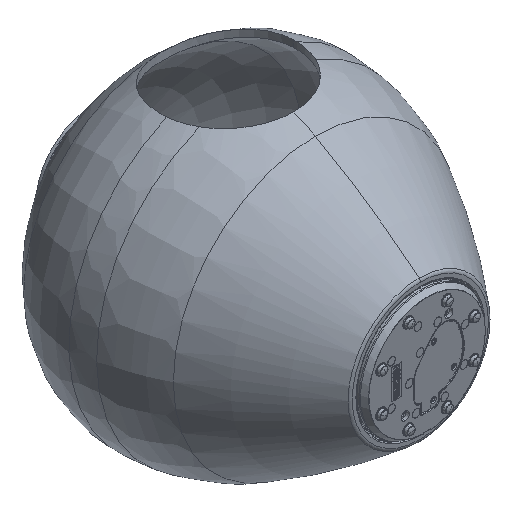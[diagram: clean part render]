
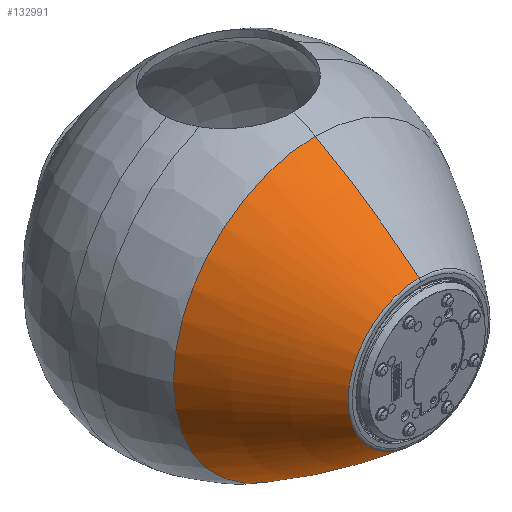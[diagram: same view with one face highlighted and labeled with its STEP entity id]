
A CAD part, isometric view. The second image highlights one B-rep face of the part: STEP entity #132991.
In plain terms, the highlighted toroidal (fillet/blend) face has major radius 460.581 mm and minor radius 700 mm.
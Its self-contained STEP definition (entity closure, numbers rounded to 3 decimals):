
#2840 = CARTESIAN_POINT ( 'NONE',  ( -107.661, 168.767, -128.637 ) ) ;
#4013 = DIRECTION ( 'NONE',  ( 0., 0., 1. ) ) ;
#17148 = FACE_OUTER_BOUND ( 'NONE', #291789, .T. ) ;
#32391 = DIRECTION ( 'NONE',  ( -1., 0., 0. ) ) ;
#39270 = CARTESIAN_POINT ( 'NONE',  ( -107.661, 506.711, 23.803 ) ) ;
#44071 = CIRCLE ( 'NONE', #54086, 700. ) ;
#46719 = CARTESIAN_POINT ( 'NONE',  ( -107.661, 57.419, -52.4 ) ) ;
#54086 = AXIS2_PLACEMENT_3D ( 'NONE', #175098, #32391, #4013 ) ;
#66172 = EDGE_CURVE ( 'NONE', #169624, #111427, #270247, .T. ) ;
#78131 = CARTESIAN_POINT ( 'NONE',  ( -107.661, 57.419, 100.005 ) ) ;
#93979 = VERTEX_POINT ( 'NONE', #103664 ) ;
#97089 = CARTESIAN_POINT ( 'NONE',  ( -107.661, 168.767, 23.803 ) ) ;
#99980 = DIRECTION ( 'NONE',  ( 0., 0., 1. ) ) ;
#103664 = CARTESIAN_POINT ( 'NONE',  ( -107.661, 168.767, 176.242 ) ) ;
#111427 = VERTEX_POINT ( 'NONE', #78131 ) ;
#114218 = ORIENTED_EDGE ( 'NONE', *, *, #169804, .T. ) ;
#123796 = CARTESIAN_POINT ( 'NONE',  ( -107.661, 57.419, 23.803 ) ) ;
#124696 = EDGE_CURVE ( 'NONE', #169624, #146662, #276823, .T. ) ;
#132991 = ADVANCED_FACE ( 'NONE', ( #17148 ), #138571, .T. ) ;
#138571 = TOROIDAL_SURFACE ( 'NONE', #270201, -460.581, 700. ) ;
#146662 = VERTEX_POINT ( 'NONE', #2840 ) ;
#153817 = AXIS2_PLACEMENT_3D ( 'NONE', #123796, #220513, #99980 ) ;
#167708 = ORIENTED_EDGE ( 'NONE', *, *, #273280, .F. ) ;
#169624 = VERTEX_POINT ( 'NONE', #46719 ) ;
#169804 = EDGE_CURVE ( 'NONE', #111427, #93979, #44071, .T. ) ;
#175098 = CARTESIAN_POINT ( 'NONE',  ( -107.661, 506.711, -436.779 ) ) ;
#186574 = ORIENTED_EDGE ( 'NONE', *, *, #66172, .T. ) ;
#195386 = DIRECTION ( 'NONE',  ( 0., 1., 0. ) ) ;
#203134 = ORIENTED_EDGE ( 'NONE', *, *, #124696, .F. ) ;
#208923 = AXIS2_PLACEMENT_3D ( 'NONE', #97089, #195386, #268165 ) ;
#212090 = DIRECTION ( 'NONE',  ( 0., 0., 1. ) ) ;
#220513 = DIRECTION ( 'NONE',  ( 0., 1., 0. ) ) ;
#221484 = DIRECTION ( 'NONE',  ( 1., 0., 0. ) ) ;
#268165 = DIRECTION ( 'NONE',  ( 0., 0., 1. ) ) ;
#269461 = CIRCLE ( 'NONE', #208923, 152.439 ) ;
#270201 = AXIS2_PLACEMENT_3D ( 'NONE', #39270, #281751, #212090 ) ;
#270247 = CIRCLE ( 'NONE', #153817, 76.202 ) ;
#272075 = CARTESIAN_POINT ( 'NONE',  ( -107.661, 506.711, 484.384 ) ) ;
#273280 = EDGE_CURVE ( 'NONE', #146662, #93979, #269461, .T. ) ;
#273650 = DIRECTION ( 'NONE',  ( 0., 0., -1. ) ) ;
#276823 = CIRCLE ( 'NONE', #297207, 700. ) ;
#281751 = DIRECTION ( 'NONE',  ( 0., 1., 0. ) ) ;
#291789 = EDGE_LOOP ( 'NONE', ( #203134, #186574, #114218, #167708 ) ) ;
#297207 = AXIS2_PLACEMENT_3D ( 'NONE', #272075, #221484, #273650 ) ;
